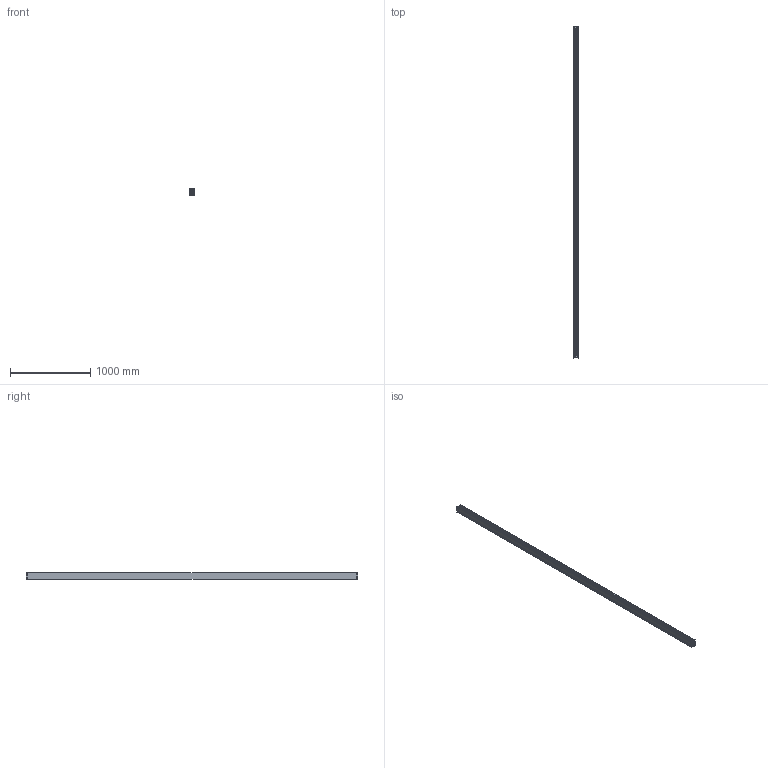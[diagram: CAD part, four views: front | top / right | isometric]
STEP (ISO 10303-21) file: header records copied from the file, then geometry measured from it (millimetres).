
FILE_DESCRIPTION (( 'STEP AP214' ), '1' );
FILE_NAME ('1001650.STEP', '2025-10-06T08:36:46', ( '' ), ( '' ), 'SwSTEP 2.0', 'SolidWorks 2025', '' );
FILE_SCHEMA (( 'AUTOMOTIVE_DESIGN' ));
Length unit declared in the file: millimetre
Products named in the file (1): 1001650
Bounding box: 60 x 4140 x 86 mm (x, y, z)
Volume: 8158414.9 mm3; surface area: 2738249.3 mm2
Topology: 7 solids, 7 shells, 459 faces, 1313 edges, 868 vertices
Faces by surface type: plane 273, cylinder 178, bspline 8
Entity records: 15492 total; most frequent: CARTESIAN_POINT 3259, ORIENTED_EDGE 2626, DIRECTION 2487, EDGE_CURVE 1313, VECTOR 931, LINE 931, VERTEX_POINT 868, AXIS2_PLACEMENT_3D 778
